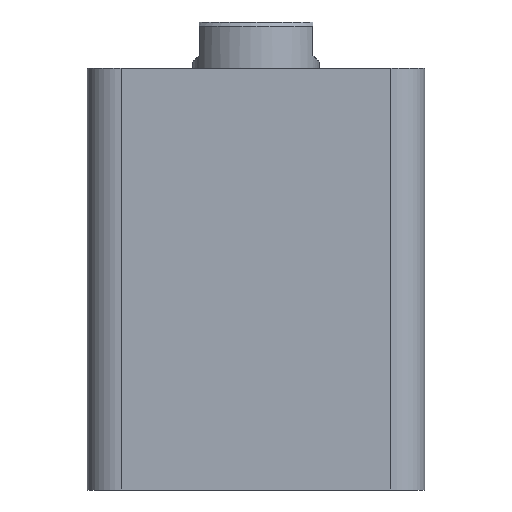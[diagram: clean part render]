
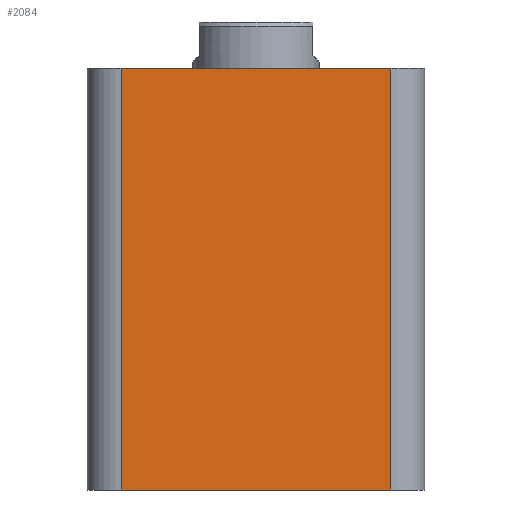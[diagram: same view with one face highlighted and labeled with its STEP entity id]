
A CAD part, front view. The second image highlights one B-rep face of the part: STEP entity #2084.
In plain terms, the highlighted planar face has unit normal (0, -1, 0).
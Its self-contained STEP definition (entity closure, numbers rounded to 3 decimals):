
#204 = VERTEX_POINT ( 'NONE', #2515 ) ;
#221 = ORIENTED_EDGE ( 'NONE', *, *, #1710, .T. ) ;
#287 = FACE_OUTER_BOUND ( 'NONE', #1466, .T. ) ;
#307 = VERTEX_POINT ( 'NONE', #2659 ) ;
#435 = VECTOR ( 'NONE', #928, 1000. ) ;
#438 = VECTOR ( 'NONE', #932, 1000. ) ;
#440 = LINE ( 'NONE', #929, #435 ) ;
#443 = VECTOR ( 'NONE', #933, 1000. ) ;
#446 = VECTOR ( 'NONE', #939, 1000. ) ;
#449 = LINE ( 'NONE', #938, #443 ) ;
#451 = LINE ( 'NONE', #941, #446 ) ;
#456 = LINE ( 'NONE', #948, #438 ) ;
#545 = VERTEX_POINT ( 'NONE', #2627 ) ;
#566 = VERTEX_POINT ( 'NONE', #2548 ) ;
#607 = ORIENTED_EDGE ( 'NONE', *, *, #1711, .T. ) ;
#620 = ORIENTED_EDGE ( 'NONE', *, *, #1709, .T. ) ;
#653 = ORIENTED_EDGE ( 'NONE', *, *, #1708, .F. ) ;
#928 = DIRECTION ( 'NONE',  ( 0., 0., 1. ) ) ;
#929 = CARTESIAN_POINT ( 'NONE',  ( 32., -40., 100. ) ) ;
#932 = DIRECTION ( 'NONE',  ( 1., 0., 0. ) ) ;
#933 = DIRECTION ( 'NONE',  ( 0., 0., -1. ) ) ;
#938 = CARTESIAN_POINT ( 'NONE',  ( -32., -40., 100. ) ) ;
#939 = DIRECTION ( 'NONE',  ( 1., 0., 0. ) ) ;
#941 = CARTESIAN_POINT ( 'NONE',  ( -40., -40., 100. ) ) ;
#948 = CARTESIAN_POINT ( 'NONE',  ( -40., -40., 0. ) ) ;
#1210 = AXIS2_PLACEMENT_3D ( 'NONE', #1933, #1919, #1923 ) ;
#1466 = EDGE_LOOP ( 'NONE', ( #653, #620, #221, #607 ) ) ;
#1708 = EDGE_CURVE ( 'NONE', #204, #307, #451, .T. ) ;
#1709 = EDGE_CURVE ( 'NONE', #204, #566, #449, .T. ) ;
#1710 = EDGE_CURVE ( 'NONE', #566, #545, #456, .T. ) ;
#1711 = EDGE_CURVE ( 'NONE', #545, #307, #440, .T. ) ;
#1919 = DIRECTION ( 'NONE',  ( 0., 1., 0. ) ) ;
#1923 = DIRECTION ( 'NONE',  ( 0., 0., 1. ) ) ;
#1925 = PLANE ( 'NONE',  #1210 ) ;
#1933 = CARTESIAN_POINT ( 'NONE',  ( -40., -40., 100. ) ) ;
#2084 = ADVANCED_FACE ( 'NONE', ( #287 ), #1925, .F. ) ;
#2515 = CARTESIAN_POINT ( 'NONE',  ( -32., -40., 100. ) ) ;
#2548 = CARTESIAN_POINT ( 'NONE',  ( -32., -40., 0. ) ) ;
#2627 = CARTESIAN_POINT ( 'NONE',  ( 32., -40., 0. ) ) ;
#2659 = CARTESIAN_POINT ( 'NONE',  ( 32., -40., 100. ) ) ;
